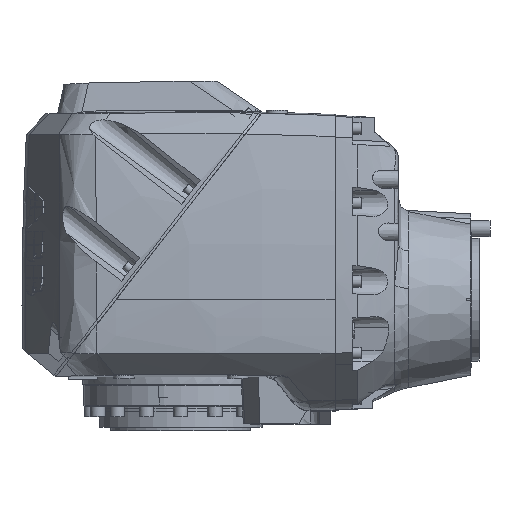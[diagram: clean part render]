
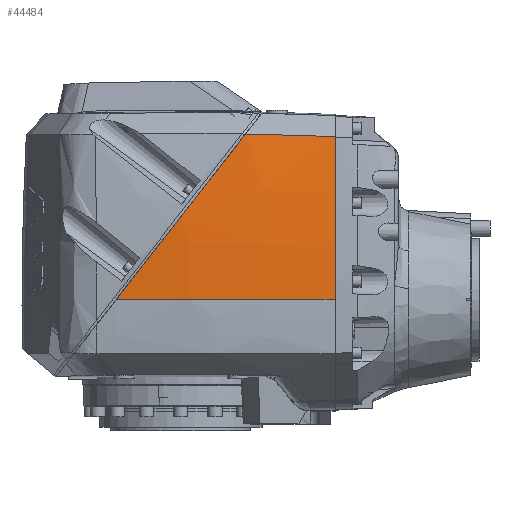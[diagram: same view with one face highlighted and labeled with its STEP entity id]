
A CAD part, top view. The second image highlights one B-rep face of the part: STEP entity #44484.
In plain terms, the highlighted toroidal (fillet/blend) face has major radius 300 mm and minor radius 1500 mm.
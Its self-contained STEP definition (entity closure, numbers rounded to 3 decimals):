
#999 = B_SPLINE_CURVE_WITH_KNOTS ( 'NONE', 3,
 ( #6842, #6955, #6480, #6408 ),
 .UNSPECIFIED., .F., .F.,
 ( 4, 4 ),
 ( 0.013, 0.346 ),
 .UNSPECIFIED. ) ;
#5213 = VERTEX_POINT ( 'NONE', #7955 ) ;
#6408 = CARTESIAN_POINT ( 'NONE',  ( 248.86, 188.744, 1905.221 ) ) ;
#6480 = CARTESIAN_POINT ( 'NONE',  ( 283.161, 188.163, 1903.601 ) ) ;
#6842 = CARTESIAN_POINT ( 'NONE',  ( 351., 185.804, 1897.04 ) ) ;
#6955 = CARTESIAN_POINT ( 'NONE',  ( 317.233, 187.178, 1900.861 ) ) ;
#7955 = CARTESIAN_POINT ( 'NONE',  ( 248.86, 188.744, 1905.221 ) ) ;
#9270 = AXIS2_PLACEMENT_3D ( 'NONE', #16493, #16278, #16170 ) ;
#12054 = DIRECTION ( 'NONE',  ( -1., 0., 0. ) ) ;
#12065 = DIRECTION ( 'NONE',  ( 0., 1., 0. ) ) ;
#12118 = CARTESIAN_POINT ( 'NONE',  ( 175., 0., 422. ) ) ;
#12396 = DIRECTION ( 'NONE',  ( 0., 1., 0. ) ) ;
#12452 = DIRECTION ( 'NONE',  ( 1., 0., 0. ) ) ;
#12494 = CARTESIAN_POINT ( 'NONE',  ( 351., 0., 722. ) ) ;
#16170 = DIRECTION ( 'NONE',  ( 0., 1., 0. ) ) ;
#16278 = DIRECTION ( 'NONE',  ( 1., 0., 0. ) ) ;
#16493 = CARTESIAN_POINT ( 'NONE',  ( 175., 0., 722. ) ) ;
#17483 = EDGE_CURVE ( 'NONE', #40223, #5213, #999, .T. ) ;
#17671 = CIRCLE ( 'NONE', #38112, 1189.639 ) ;
#21754 = VERTEX_POINT ( 'NONE', #34837 ) ;
#22547 = CIRCLE ( 'NONE', #34900, 1500. ) ;
#22915 = EDGE_CURVE ( 'NONE', #40223, #21754, #17671, .T. ) ;
#23923 = EDGE_CURVE ( 'NONE', #44786, #5213, #48319, .T. ) ;
#25358 = EDGE_CURVE ( 'NONE', #44786, #21754, #22547, .T. ) ;
#30855 = TOROIDAL_SURFACE ( 'NONE', #9270, -300., 1500. ) ;
#33634 = ORIENTED_EDGE ( 'NONE', *, *, #17483, .T. ) ;
#33675 = ORIENTED_EDGE ( 'NONE', *, *, #22915, .F. ) ;
#34297 = ORIENTED_EDGE ( 'NONE', *, *, #23923, .F. ) ;
#34837 = CARTESIAN_POINT ( 'NONE',  ( 351., 0., 1911.639 ) ) ;
#34900 = AXIS2_PLACEMENT_3D ( 'NONE', #12118, #12065, #12054 ) ;
#38112 = AXIS2_PLACEMENT_3D ( 'NONE', #12494, #12452, #12396 ) ;
#39803 = EDGE_LOOP ( 'NONE', ( #34297, #45403, #33675, #33634 ) ) ;
#40223 = VERTEX_POINT ( 'NONE', #45108 ) ;
#41614 = CARTESIAN_POINT ( 'NONE',  ( 248.86, 188.744, 1905.221 ) ) ;
#41636 = FACE_OUTER_BOUND ( 'NONE', #39803, .T. ) ;
#41694 = CARTESIAN_POINT ( 'NONE',  ( 224.426, 157.47, 1911.43 ) ) ;
#41807 = CARTESIAN_POINT ( 'NONE',  ( 199.92, 126.104, 1915.767 ) ) ;
#41821 = CARTESIAN_POINT ( 'NONE',  ( 150.765, 63.189, 1920.756 ) ) ;
#41964 = CARTESIAN_POINT ( 'NONE',  ( 101.397, 0., 1920.193 ) ) ;
#41976 = CARTESIAN_POINT ( 'NONE',  ( 126.117, 31.64, 1921.408 ) ) ;
#44484 = ADVANCED_FACE ( 'NONE', ( #41636 ), #30855, .T. ) ;
#44786 = VERTEX_POINT ( 'NONE', #45740 ) ;
#45108 = CARTESIAN_POINT ( 'NONE',  ( 351., 185.804, 1897.04 ) ) ;
#45403 = ORIENTED_EDGE ( 'NONE', *, *, #25358, .T. ) ;
#45740 = CARTESIAN_POINT ( 'NONE',  ( 101.397, 0., 1920.193 ) ) ;
#48319 = B_SPLINE_CURVE_WITH_KNOTS ( 'NONE', 3,
 ( #41964, #41976, #41821, #41807, #41694, #41614 ),
 .UNSPECIFIED., .F., .F.,
 ( 4, 2, 4 ),
 ( 0., 0.12, 0.24 ),
 .UNSPECIFIED. ) ;
